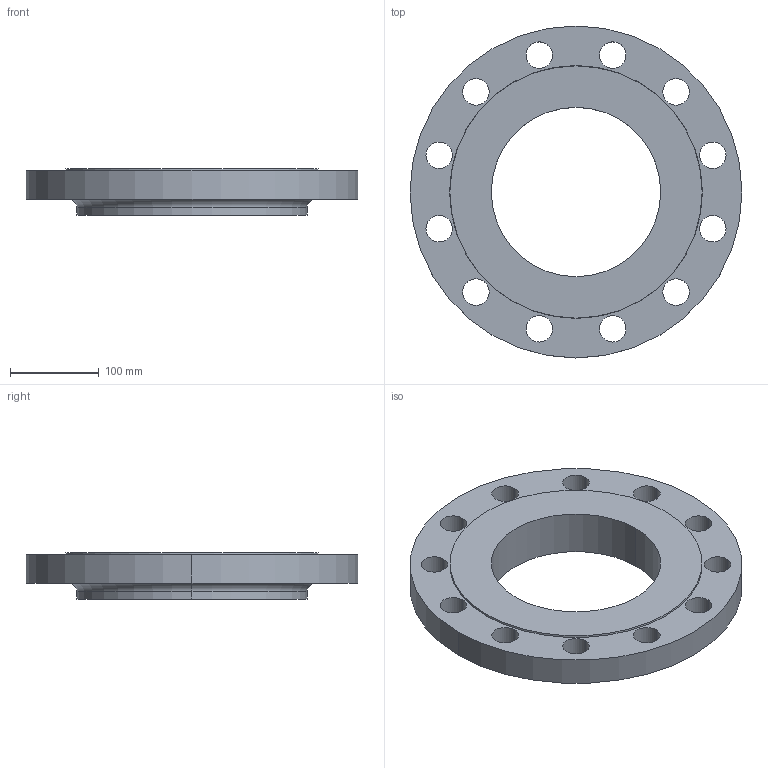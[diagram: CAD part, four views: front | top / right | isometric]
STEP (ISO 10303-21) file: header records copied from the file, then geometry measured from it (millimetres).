
FILE_DESCRIPTION (( 'STEP AP214' ), '1' );
FILE_NAME ('PN40 DN200 Type 13 - Type B Face.STEP', '2019-01-05T02:10:20', ( '' ), ( '' ), 'SwSTEP 2.0', 'SolidWorks 2019', '' );
FILE_SCHEMA (( 'AUTOMOTIVE_DESIGN' ));
Length unit declared in the file: millimetre
Products named in the file (1): PN40 DN200 Type 13 - Type B Face
Bounding box: 375 x 375 x 52 mm (x, y, z)
Volume: 2869045.9 mm3; surface area: 264314.1 mm2
Topology: 1 solids, 1 shells, 38 faces, 100 edges, 66 vertices
Faces by surface type: cylinder 30, plane 4, torus 2, cone 2
Entity records: 1302 total; most frequent: DIRECTION 246, CARTESIAN_POINT 205, ORIENTED_EDGE 200, AXIS2_PLACEMENT_3D 107, EDGE_CURVE 100, CIRCLE 68, EDGE_LOOP 66, VERTEX_POINT 66
